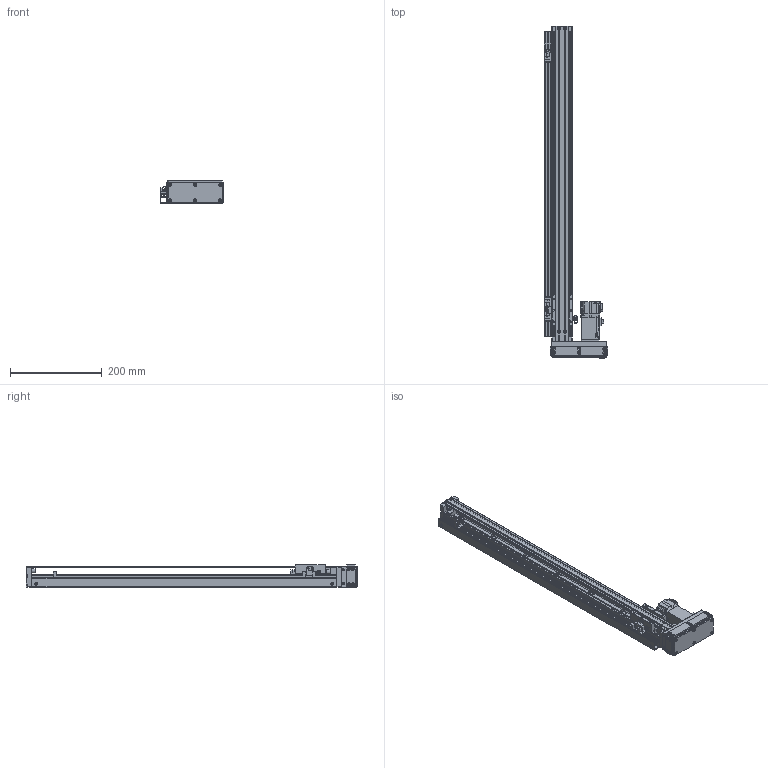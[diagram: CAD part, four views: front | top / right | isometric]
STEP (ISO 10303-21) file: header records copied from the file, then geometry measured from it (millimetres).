
FILE_DESCRIPTION(/* description */ ('MANUFACTURE'),/* implementation_level */ '2;1');
FILE_NAME(/* name */ '\\192.168.0.160\disk1\HAN SHIN Master\B-설계부문\C-표준\B-2024년\BC02-표준도면\+로봇 개선표준도면\표준 승인도 폴더 - 재작업\3D\HG45\병렬-R\HG45-R10-N-0550-L10.stp',/* time_stamp */ '2024-03-05T10:18:18+09:00',/* author */ ('User'),/* organization */ (''),/* preprocessor_version */ 'ST-DEVELOPER v18.1',/* originating_system */ 'Autodesk Inventor 2022',/* authorisation */ 'LIP');
FILE_SCHEMA (('AUTOMOTIVE_DESIGN { 1 0 10303 214 3 1 1 }'));
Products named in the file (21): HG45-L10-N-0500-R10 - 간소화; HR45 S BASE; HR45 REAR BLOCK; HR45 FRONT BLOCK; HR45 STOPPER; HR45 SENSOR RAIL; HC45 - TABLE (SFSR); HR45 UPCOVER-28mm; HR45 MOTOR PLATE 100W; hg-kr13_; 화살표; ESF1210 NUT; HR45 LR BELT COVER; HR45 ACRYL COVER(정면); HR45 ACRYL COVER(측면); HR45 ACRYL COVER(상하면); HC45 L,R MOTOR PLATE_MIR; HR45 SENSOR DOG; NIPPLE CAP(신규); hsr_ftht_A-M6F_grease_nipple_joint; EE_SX674A
Assembly tree (27 placements, depth 2):
  HG45-L10-N-0500-R10 - 간소화
    HR45 S BASE
    HR45 REAR BLOCK
    HR45 FRONT BLOCK
    HR45 STOPPER  x4
    HR45 SENSOR RAIL
    HC45 - TABLE (SFSR)
    HR45 UPCOVER-28mm
    HR45 MOTOR PLATE 100W
    hg-kr13_
    화살표  x2
    EE_SX674A  x3
    ESF1210 NUT
    HR45 LR BELT COVER
    HR45 ACRYL COVER(상하면)  x2
    HR45 ACRYL COVER(정면)
    HR45 ACRYL COVER(측면)
    HC45 L,R MOTOR PLATE_MIR
    HR45 SENSOR DOG
    NIPPLE CAP(신규)
    hsr_ftht_A-M6F_grease_nipple_joint
Bounding box: 139.5 x 724 x 50 mm (x, y, z)
Volume: 755945 mm3; surface area: 409389 mm2
Topology: 27 solids, 27 shells, 2340 faces, 6406 edges, 4208 vertices
Faces by surface type: plane 1668, cylinder 518, cone 127, bspline 13, sphere 8, torus 6
Full cylindrical faces by diameter (mm): 1 x1, 2.013 x6, 2.459 x74, 2.5 x4, 3 x11, 3.242 x26, 3.4 x36, 3.5 x21, 4 x13, 4.134 x1, 4.5 x20, 4.917 x2, 5.6 x3, 5.9 x2, 6 x20, 6.5 x6, 8 x15, 9 x4, 10 x1, 12 x1, 13 x1, 15 x1, 18 x1, 22 x2, 24 x1, 26 x1, 30 x2
Entity records: 73036 total; most frequent: CARTESIAN_POINT 14049, ORIENTED_EDGE 11932, DIRECTION 11372, EDGE_CURVE 5966, LINE 4690, VECTOR 4690, VERTEX_POINT 3961, AXIS2_PLACEMENT_3D 3341
